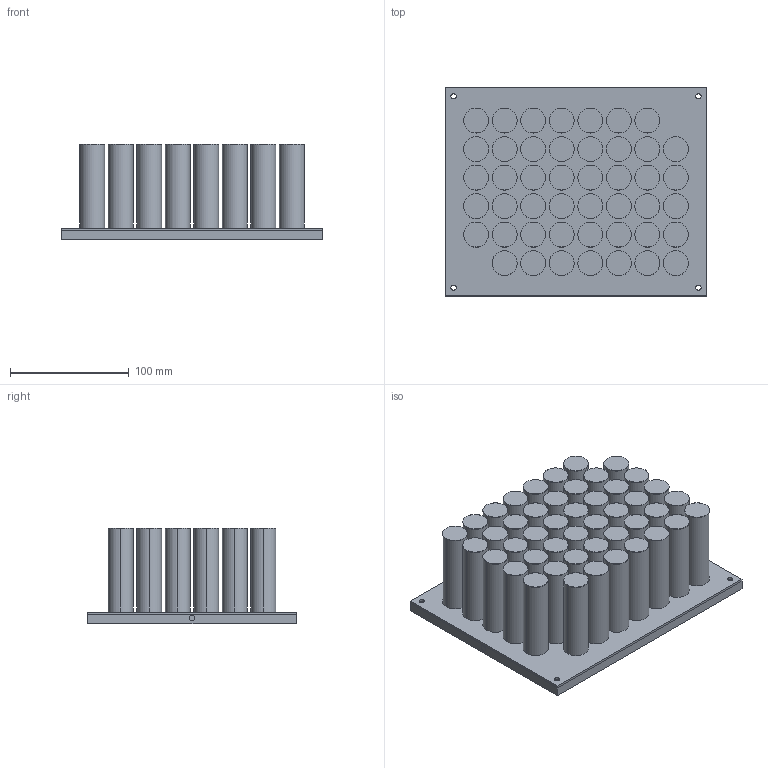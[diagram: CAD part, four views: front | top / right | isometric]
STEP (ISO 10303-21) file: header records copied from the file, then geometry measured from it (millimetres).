
FILE_DESCRIPTION (( 'STEP AP214' ), '1' );
FILE_NAME ('CFD_Final Battery_Cooling_Plate_Assembly.STEP', '2026-11-18T02:46:41', ( '' ), ( '' ), 'SwSTEP 2.0', 'SolidWorks 2026', '' );
FILE_SCHEMA (( 'AUTOMOTIVE_DESIGN' ));
Length unit declared in the file: millimetre
Products named in the file (8): CFD_G11_A_BASE_LID_COOLANT; CFD_G11_A_Lid; CFD_Final Battery_Cooling_Plate_Assembly; CFD_Thermal Pad; G11_Cell_Simple; CFD_G11_CellStack; CFD_G11_A_BASE; CFD_G11_A_Fluid
Assembly tree (52 placements, depth 3):
  CFD_Final Battery_Cooling_Plate_Assembly
    CFD_G11_A_BASE_LID_COOLANT
      CFD_G11_A_BASE
      CFD_G11_A_Fluid
      CFD_G11_A_Lid
    CFD_G11_CellStack  x46
      CFD_Thermal Pad
      G11_Cell_Simple
Bounding box: 220 x 175 x 80.6 mm (x, y, z)
Volume: 1498517.2 mm3; surface area: 490772.2 mm2
Topology: 95 solids, 95 shells, 478 faces, 840 edges, 560 vertices
Faces by surface type: plane 270, cylinder 208
Entity records: 4199 total; most frequent: DIRECTION 706, CARTESIAN_POINT 675, ORIENTED_EDGE 600, EDGE_CURVE 300, LINE 244, VECTOR 244, AXIS2_PLACEMENT_3D 231, VERTEX_POINT 200
